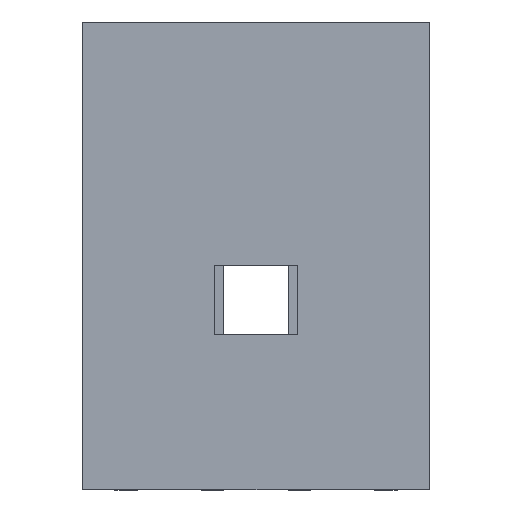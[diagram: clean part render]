
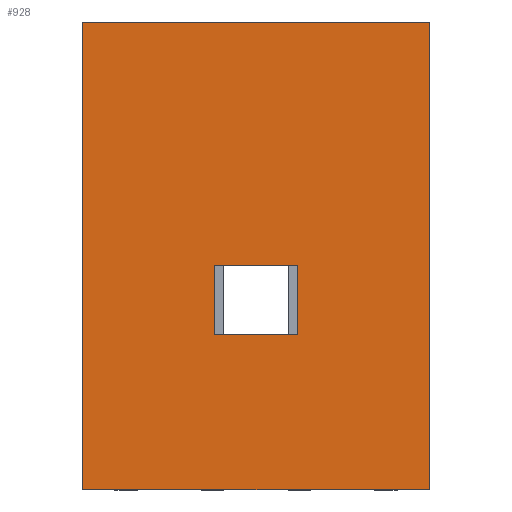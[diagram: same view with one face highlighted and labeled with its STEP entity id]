
A CAD part, top view. The second image highlights one B-rep face of the part: STEP entity #928.
In plain terms, the highlighted planar face has unit normal (0, 0, 1).
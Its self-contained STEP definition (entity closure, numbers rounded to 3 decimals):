
#66 = PLANE('',#67);
#67 = AXIS2_PLACEMENT_3D('',#68,#69,#70);
#68 = CARTESIAN_POINT('',(-1.25,-3.38,0.));
#69 = DIRECTION('',(1.,0.,0.));
#70 = DIRECTION('',(0.,0.,1.));
#147 = VERTEX_POINT('',#148);
#148 = CARTESIAN_POINT('',(-1.25,2.62,6.7));
#162 = PLANE('',#163);
#163 = AXIS2_PLACEMENT_3D('',#164,#165,#166);
#164 = CARTESIAN_POINT('',(-1.25,2.62,0.));
#165 = DIRECTION('',(0.,1.,0.));
#166 = DIRECTION('',(0.,0.,1.));
#174 = EDGE_CURVE('',#175,#147,#177,.T.);
#175 = VERTEX_POINT('',#176);
#176 = CARTESIAN_POINT('',(-1.25,-10.88,6.7));
#177 = SURFACE_CURVE('',#178,(#182,#189),.PCURVE_S1.);
#178 = LINE('',#179,#180);
#179 = CARTESIAN_POINT('',(-1.25,-10.88,6.7));
#180 = VECTOR('',#181,1.);
#181 = DIRECTION('',(0.,1.,0.));
#182 = PCURVE('',#66,#183);
#183 = DEFINITIONAL_REPRESENTATION('',(#184),#188);
#184 = LINE('',#185,#186);
#185 = CARTESIAN_POINT('',(6.7,7.5));
#186 = VECTOR('',#187,1.);
#187 = DIRECTION('',(0.,-1.));
#188 = ( GEOMETRIC_REPRESENTATION_CONTEXT(2) 
PARAMETRIC_REPRESENTATION_CONTEXT() REPRESENTATION_CONTEXT('2D SPACE',''
  ) );
#189 = PCURVE('',#190,#195);
#190 = PLANE('',#191);
#191 = AXIS2_PLACEMENT_3D('',#192,#193,#194);
#192 = CARTESIAN_POINT('',(-1.25,-0.8,6.7));
#193 = DIRECTION('',(0.,0.,1.));
#194 = DIRECTION('',(1.,0.,0.));
#195 = DEFINITIONAL_REPRESENTATION('',(#196),#200);
#196 = LINE('',#197,#198);
#197 = CARTESIAN_POINT('',(0.,-10.08));
#198 = VECTOR('',#199,1.);
#199 = DIRECTION('',(0.,1.));
#200 = ( GEOMETRIC_REPRESENTATION_CONTEXT(2) 
PARAMETRIC_REPRESENTATION_CONTEXT() REPRESENTATION_CONTEXT('2D SPACE',''
  ) );
#218 = PLANE('',#219);
#219 = AXIS2_PLACEMENT_3D('',#220,#221,#222);
#220 = CARTESIAN_POINT('',(-1.25,-10.88,5.6));
#221 = DIRECTION('',(0.,1.,0.));
#222 = DIRECTION('',(0.,0.,1.));
#327 = PLANE('',#328);
#328 = AXIS2_PLACEMENT_3D('',#329,#330,#331);
#329 = CARTESIAN_POINT('',(8.75,-3.38,0.));
#330 = DIRECTION('',(1.,0.,0.));
#331 = DIRECTION('',(0.,0.,1.));
#885 = EDGE_CURVE('',#147,#886,#888,.T.);
#886 = VERTEX_POINT('',#887);
#887 = CARTESIAN_POINT('',(8.75,2.62,6.7));
#888 = SURFACE_CURVE('',#889,(#893,#900),.PCURVE_S1.);
#889 = LINE('',#890,#891);
#890 = CARTESIAN_POINT('',(-1.25,2.62,6.7));
#891 = VECTOR('',#892,1.);
#892 = DIRECTION('',(1.,0.,0.));
#893 = PCURVE('',#162,#894);
#894 = DEFINITIONAL_REPRESENTATION('',(#895),#899);
#895 = LINE('',#896,#897);
#896 = CARTESIAN_POINT('',(6.7,0.));
#897 = VECTOR('',#898,1.);
#898 = DIRECTION('',(0.,1.));
#899 = ( GEOMETRIC_REPRESENTATION_CONTEXT(2) 
PARAMETRIC_REPRESENTATION_CONTEXT() REPRESENTATION_CONTEXT('2D SPACE',''
  ) );
#900 = PCURVE('',#190,#901);
#901 = DEFINITIONAL_REPRESENTATION('',(#902),#906);
#902 = LINE('',#903,#904);
#903 = CARTESIAN_POINT('',(0.,3.42));
#904 = VECTOR('',#905,1.);
#905 = DIRECTION('',(1.,0.));
#906 = ( GEOMETRIC_REPRESENTATION_CONTEXT(2) 
PARAMETRIC_REPRESENTATION_CONTEXT() REPRESENTATION_CONTEXT('2D SPACE',''
  ) );
#928 = ADVANCED_FACE('',(#929,#977),#190,.T.);
#929 = FACE_BOUND('',#930,.T.);
#930 = EDGE_LOOP('',(#931,#932,#955,#976));
#931 = ORIENTED_EDGE('',*,*,#174,.F.);
#932 = ORIENTED_EDGE('',*,*,#933,.T.);
#933 = EDGE_CURVE('',#175,#934,#936,.T.);
#934 = VERTEX_POINT('',#935);
#935 = CARTESIAN_POINT('',(8.75,-10.88,6.7));
#936 = SURFACE_CURVE('',#937,(#941,#948),.PCURVE_S1.);
#937 = LINE('',#938,#939);
#938 = CARTESIAN_POINT('',(-1.25,-10.88,6.7));
#939 = VECTOR('',#940,1.);
#940 = DIRECTION('',(1.,0.,0.));
#941 = PCURVE('',#190,#942);
#942 = DEFINITIONAL_REPRESENTATION('',(#943),#947);
#943 = LINE('',#944,#945);
#944 = CARTESIAN_POINT('',(0.,-10.08));
#945 = VECTOR('',#946,1.);
#946 = DIRECTION('',(1.,0.));
#947 = ( GEOMETRIC_REPRESENTATION_CONTEXT(2) 
PARAMETRIC_REPRESENTATION_CONTEXT() REPRESENTATION_CONTEXT('2D SPACE',''
  ) );
#948 = PCURVE('',#218,#949);
#949 = DEFINITIONAL_REPRESENTATION('',(#950),#954);
#950 = LINE('',#951,#952);
#951 = CARTESIAN_POINT('',(1.1,0.));
#952 = VECTOR('',#953,1.);
#953 = DIRECTION('',(0.,1.));
#954 = ( GEOMETRIC_REPRESENTATION_CONTEXT(2) 
PARAMETRIC_REPRESENTATION_CONTEXT() REPRESENTATION_CONTEXT('2D SPACE',''
  ) );
#955 = ORIENTED_EDGE('',*,*,#956,.T.);
#956 = EDGE_CURVE('',#934,#886,#957,.T.);
#957 = SURFACE_CURVE('',#958,(#962,#969),.PCURVE_S1.);
#958 = LINE('',#959,#960);
#959 = CARTESIAN_POINT('',(8.75,-10.88,6.7));
#960 = VECTOR('',#961,1.);
#961 = DIRECTION('',(0.,1.,0.));
#962 = PCURVE('',#190,#963);
#963 = DEFINITIONAL_REPRESENTATION('',(#964),#968);
#964 = LINE('',#965,#966);
#965 = CARTESIAN_POINT('',(10.,-10.08));
#966 = VECTOR('',#967,1.);
#967 = DIRECTION('',(0.,1.));
#968 = ( GEOMETRIC_REPRESENTATION_CONTEXT(2) 
PARAMETRIC_REPRESENTATION_CONTEXT() REPRESENTATION_CONTEXT('2D SPACE',''
  ) );
#969 = PCURVE('',#327,#970);
#970 = DEFINITIONAL_REPRESENTATION('',(#971),#975);
#971 = LINE('',#972,#973);
#972 = CARTESIAN_POINT('',(6.7,7.5));
#973 = VECTOR('',#974,1.);
#974 = DIRECTION('',(0.,-1.));
#975 = ( GEOMETRIC_REPRESENTATION_CONTEXT(2) 
PARAMETRIC_REPRESENTATION_CONTEXT() REPRESENTATION_CONTEXT('2D SPACE',''
  ) );
#976 = ORIENTED_EDGE('',*,*,#885,.F.);
#977 = FACE_BOUND('',#978,.T.);
#978 = EDGE_LOOP('',(#979,#1007,#1033,#1059));
#979 = ORIENTED_EDGE('',*,*,#980,.T.);
#980 = EDGE_CURVE('',#981,#983,#985,.T.);
#981 = VERTEX_POINT('',#982);
#982 = CARTESIAN_POINT('',(4.95,-6.4,6.7));
#983 = VERTEX_POINT('',#984);
#984 = CARTESIAN_POINT('',(2.55,-6.4,6.7));
#985 = SURFACE_CURVE('',#986,(#990,#996),.PCURVE_S1.);
#986 = LINE('',#987,#988);
#987 = CARTESIAN_POINT('',(0.65,-6.4,6.7));
#988 = VECTOR('',#989,1.);
#989 = DIRECTION('',(-1.,0.,0.));
#990 = PCURVE('',#190,#991);
#991 = DEFINITIONAL_REPRESENTATION('',(#992),#995);
#992 = B_SPLINE_CURVE_WITH_KNOTS('',1,(#993,#994),.UNSPECIFIED.,.F.,.F.,
  (2,2),(-4.3,-1.9),.PIECEWISE_BEZIER_KNOTS.);
#993 = CARTESIAN_POINT('',(6.2,-5.6));
#994 = CARTESIAN_POINT('',(3.8,-5.6));
#995 = ( GEOMETRIC_REPRESENTATION_CONTEXT(2) 
PARAMETRIC_REPRESENTATION_CONTEXT() REPRESENTATION_CONTEXT('2D SPACE',''
  ) );
#996 = PCURVE('',#997,#1002);
#997 = PLANE('',#998);
#998 = AXIS2_PLACEMENT_3D('',#999,#1000,#1001);
#999 = CARTESIAN_POINT('',(2.55,-6.4,5.5));
#1000 = DIRECTION('',(0.,1.,0.));
#1001 = DIRECTION('',(0.,0.,1.));
#1002 = DEFINITIONAL_REPRESENTATION('',(#1003),#1006);
#1003 = B_SPLINE_CURVE_WITH_KNOTS('',1,(#1004,#1005),.UNSPECIFIED.,.F.,
  .F.,(2,2),(-4.3,-1.9),.PIECEWISE_BEZIER_KNOTS.);
#1004 = CARTESIAN_POINT('',(1.2,2.4));
#1005 = CARTESIAN_POINT('',(1.2,0.));
#1006 = ( GEOMETRIC_REPRESENTATION_CONTEXT(2) 
PARAMETRIC_REPRESENTATION_CONTEXT() REPRESENTATION_CONTEXT('2D SPACE',''
  ) );
#1007 = ORIENTED_EDGE('',*,*,#1008,.T.);
#1008 = EDGE_CURVE('',#983,#1009,#1011,.T.);
#1009 = VERTEX_POINT('',#1010);
#1010 = CARTESIAN_POINT('',(2.55,-4.4,6.7));
#1011 = SURFACE_CURVE('',#1012,(#1016,#1022),.PCURVE_S1.);
#1012 = LINE('',#1013,#1014);
#1013 = CARTESIAN_POINT('',(2.55,-3.6,6.7));
#1014 = VECTOR('',#1015,1.);
#1015 = DIRECTION('',(0.,1.,0.));
#1016 = PCURVE('',#190,#1017);
#1017 = DEFINITIONAL_REPRESENTATION('',(#1018),#1021);
#1018 = B_SPLINE_CURVE_WITH_KNOTS('',1,(#1019,#1020),.UNSPECIFIED.,.F.,
  .F.,(2,2),(-2.8,-0.8),.PIECEWISE_BEZIER_KNOTS.);
#1019 = CARTESIAN_POINT('',(3.8,-5.6));
#1020 = CARTESIAN_POINT('',(3.8,-3.6));
#1021 = ( GEOMETRIC_REPRESENTATION_CONTEXT(2) 
PARAMETRIC_REPRESENTATION_CONTEXT() REPRESENTATION_CONTEXT('2D SPACE',''
  ) );
#1022 = PCURVE('',#1023,#1028);
#1023 = PLANE('',#1024);
#1024 = AXIS2_PLACEMENT_3D('',#1025,#1026,#1027);
#1025 = CARTESIAN_POINT('',(2.55,-6.4,5.5));
#1026 = DIRECTION('',(1.,0.,0.));
#1027 = DIRECTION('',(0.,0.,1.));
#1028 = DEFINITIONAL_REPRESENTATION('',(#1029),#1032);
#1029 = B_SPLINE_CURVE_WITH_KNOTS('',1,(#1030,#1031),.UNSPECIFIED.,.F.,
  .F.,(2,2),(-2.8,-0.8),.PIECEWISE_BEZIER_KNOTS.);
#1030 = CARTESIAN_POINT('',(1.2,0.));
#1031 = CARTESIAN_POINT('',(1.2,-2.));
#1032 = ( GEOMETRIC_REPRESENTATION_CONTEXT(2) 
PARAMETRIC_REPRESENTATION_CONTEXT() REPRESENTATION_CONTEXT('2D SPACE',''
  ) );
#1033 = ORIENTED_EDGE('',*,*,#1034,.F.);
#1034 = EDGE_CURVE('',#1035,#1009,#1037,.T.);
#1035 = VERTEX_POINT('',#1036);
#1036 = CARTESIAN_POINT('',(4.95,-4.4,6.7));
#1037 = SURFACE_CURVE('',#1038,(#1042,#1048),.PCURVE_S1.);
#1038 = LINE('',#1039,#1040);
#1039 = CARTESIAN_POINT('',(0.65,-4.4,6.7));
#1040 = VECTOR('',#1041,1.);
#1041 = DIRECTION('',(-1.,0.,0.));
#1042 = PCURVE('',#190,#1043);
#1043 = DEFINITIONAL_REPRESENTATION('',(#1044),#1047);
#1044 = B_SPLINE_CURVE_WITH_KNOTS('',1,(#1045,#1046),.UNSPECIFIED.,.F.,
  .F.,(2,2),(-4.3,-1.9),.PIECEWISE_BEZIER_KNOTS.);
#1045 = CARTESIAN_POINT('',(6.2,-3.6));
#1046 = CARTESIAN_POINT('',(3.8,-3.6));
#1047 = ( GEOMETRIC_REPRESENTATION_CONTEXT(2) 
PARAMETRIC_REPRESENTATION_CONTEXT() REPRESENTATION_CONTEXT('2D SPACE',''
  ) );
#1048 = PCURVE('',#1049,#1054);
#1049 = PLANE('',#1050);
#1050 = AXIS2_PLACEMENT_3D('',#1051,#1052,#1053);
#1051 = CARTESIAN_POINT('',(2.55,-4.4,5.5));
#1052 = DIRECTION('',(0.,1.,0.));
#1053 = DIRECTION('',(0.,0.,1.));
#1054 = DEFINITIONAL_REPRESENTATION('',(#1055),#1058);
#1055 = B_SPLINE_CURVE_WITH_KNOTS('',1,(#1056,#1057),.UNSPECIFIED.,.F.,
  .F.,(2,2),(-4.3,-1.9),.PIECEWISE_BEZIER_KNOTS.);
#1056 = CARTESIAN_POINT('',(1.2,2.4));
#1057 = CARTESIAN_POINT('',(1.2,0.));
#1058 = ( GEOMETRIC_REPRESENTATION_CONTEXT(2) 
PARAMETRIC_REPRESENTATION_CONTEXT() REPRESENTATION_CONTEXT('2D SPACE',''
  ) );
#1059 = ORIENTED_EDGE('',*,*,#1060,.F.);
#1060 = EDGE_CURVE('',#981,#1035,#1061,.T.);
#1061 = SURFACE_CURVE('',#1062,(#1066,#1072),.PCURVE_S1.);
#1062 = LINE('',#1063,#1064);
#1063 = CARTESIAN_POINT('',(4.95,-3.6,6.7));
#1064 = VECTOR('',#1065,1.);
#1065 = DIRECTION('',(0.,1.,0.));
#1066 = PCURVE('',#190,#1067);
#1067 = DEFINITIONAL_REPRESENTATION('',(#1068),#1071);
#1068 = B_SPLINE_CURVE_WITH_KNOTS('',1,(#1069,#1070),.UNSPECIFIED.,.F.,
  .F.,(2,2),(-2.8,-0.8),.PIECEWISE_BEZIER_KNOTS.);
#1069 = CARTESIAN_POINT('',(6.2,-5.6));
#1070 = CARTESIAN_POINT('',(6.2,-3.6));
#1071 = ( GEOMETRIC_REPRESENTATION_CONTEXT(2) 
PARAMETRIC_REPRESENTATION_CONTEXT() REPRESENTATION_CONTEXT('2D SPACE',''
  ) );
#1072 = PCURVE('',#1073,#1078);
#1073 = PLANE('',#1074);
#1074 = AXIS2_PLACEMENT_3D('',#1075,#1076,#1077);
#1075 = CARTESIAN_POINT('',(4.95,-6.4,5.5));
#1076 = DIRECTION('',(1.,0.,0.));
#1077 = DIRECTION('',(0.,0.,1.));
#1078 = DEFINITIONAL_REPRESENTATION('',(#1079),#1082);
#1079 = B_SPLINE_CURVE_WITH_KNOTS('',1,(#1080,#1081),.UNSPECIFIED.,.F.,
  .F.,(2,2),(-2.8,-0.8),.PIECEWISE_BEZIER_KNOTS.);
#1080 = CARTESIAN_POINT('',(1.2,0.));
#1081 = CARTESIAN_POINT('',(1.2,-2.));
#1082 = ( GEOMETRIC_REPRESENTATION_CONTEXT(2) 
PARAMETRIC_REPRESENTATION_CONTEXT() REPRESENTATION_CONTEXT('2D SPACE',''
  ) );
